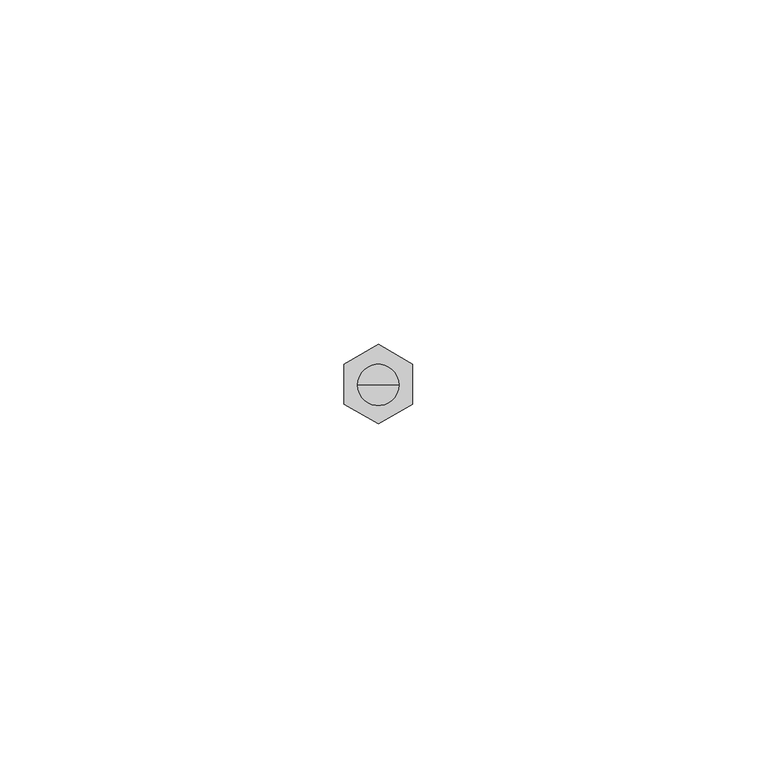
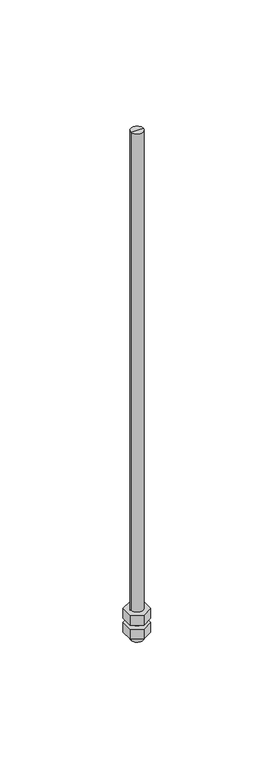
"""IFC4 building model written with IfcOpenShell, lengths in millimetres: proxy geometry, durlum_threaded_rod_M6 : durlum_threaded_rod_M6."""

from ifc_helpers import new_model, si_unit, frame, origin, origin_with_axes, place, context, project, spatial, polyline, circle_curve, outline, extrude, source, transform, mapped, element, save
from ifc_brep_helpers import plane_surface, cylinder_surface, advanced_brep


def generic_models_2ff1d041(model_context):
    return source(origin(), model_context, "Body", "SolidModel", [
        extrude(outline(polyline([(5.0, 3.0421914), (5.0, -2.7313113), (0.0, -5.6180626), (-5.0, -2.7313113), (-5.0, 3.0421914), (0.0, 5.9289428), (5.0, 3.0421914)])), frame((0.0, 0.0, -7.0), z_axis=(0.0, 0.0, 1.0), x_axis=(1.0, 0.0, 0.0)), (0.0, 0.0, 1.0), 5.0),
        extrude(outline(polyline([(5.0, 3.0421914), (5.0, -2.7313113), (0.0, -5.6180626), (-5.0, -2.7313113), (-5.0, 3.0421914), (0.0, 5.9289428), (5.0, 3.0421914)])), origin_with_axes(), (0.0, 0.0, 1.0), 5.0),
        advanced_brep(
        [(-3.0, 0.0, 248.7244476), (3.0, 0.0, 248.7244476), (3.0, 0.0, -10.0), (-3.0, 0.0, -10.0), (0.0, 0.0, 248.7244476), (0.0, 0.0, -10.0)],
        [
            (0, 1, circle_curve(frame((0.0, 0.0, 248.7244476), z_axis=(0.0, 0.0, -1.0), x_axis=(1.0, 0.0, 0.0)), 3.0)),
            (1, 2),
            (2, 3, circle_curve(frame((0.0, 0.0, -10.0), z_axis=(0.0, 0.0, 1.0), x_axis=(1.0, 0.0, 0.0)), 3.0)),
            (3, 0),
            (1, 0, circle_curve(frame((0.0, 0.0, 248.7244476), z_axis=(0.0, 0.0, -1.0), x_axis=(1.0, 0.0, 0.0)), 3.0)),
            (3, 2, circle_curve(frame((0.0, 0.0, -10.0), z_axis=(0.0, 0.0, 1.0), x_axis=(1.0, 0.0, 0.0)), 3.0)),
            (4, 1),
            (0, 4),
            (2, 5),
            (5, 3),
        ],
        [
            cylinder_surface(frame((0.0, 0.0, -675.0), z_axis=(0.0, 0.0, 1.0), x_axis=(1.0, 0.0, 0.0)), 3.0),
            plane_surface(frame((0.0, 0.0, 248.7244476), z_axis=(0.0, 0.0, 1.0), x_axis=(1.0, 0.0, 0.0))),
            plane_surface(frame((0.0, 0.0, -10.0), z_axis=(0.0, 0.0, -1.0), x_axis=(1.0, 0.0, 0.0))),
        ],
        [
            (0, [[1, 2, 3, 4]]),
            (0, [[5, -4, 6, -2]]),
            (1, [[7, -1, 8]]),
            (1, [[-8, -5, -7]]),
            (2, [[-3, 9, 10]]),
            (2, [[-6, -10, -9]]),
        ],
    ),
    ])


if __name__ == "__main__":
    model = new_model("IFC4")
    model_context = context("Model", 3, world=origin())
    ifc_project = project(units=[si_unit("LENGTHUNIT", "METRE", prefix="MILLI")], contexts=[model_context])
    site = spatial("IfcSite", under=ifc_project)
    building = spatial("IfcBuilding", under=site)
    placement = place(None, origin())
    generic_models_shape = generic_models_2ff1d041(model_context)
    element("IfcBuildingElementProxy", 1, Name="durlum_threaded_rod_M6 : durlum_threaded_rod_M6", ObjectType="durlum_threaded_rod_M6 : durlum_threaded_rod_M6", at=placement, inside=building, context=model_context, shape_type="MappedRepresentation", body=[
        mapped(generic_models_shape, transform((0.0, 0.0, 0.0), x_axis=(1.0, 0.0, 0.0), y_axis=(0.0, 1.0, 0.0), z_axis=(0.0, 0.0, 1.0))),
    ])
    save(model, "model.ifc")
